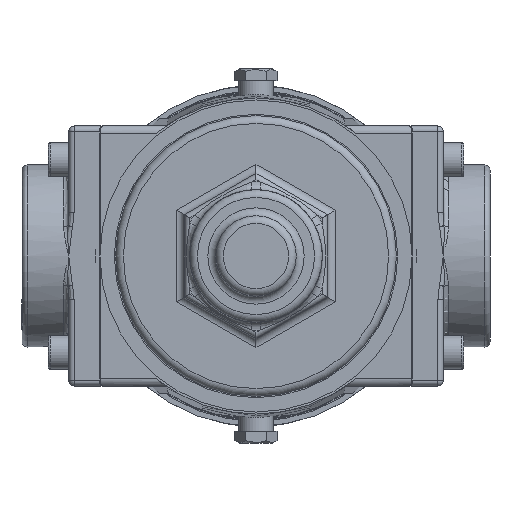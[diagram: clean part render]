
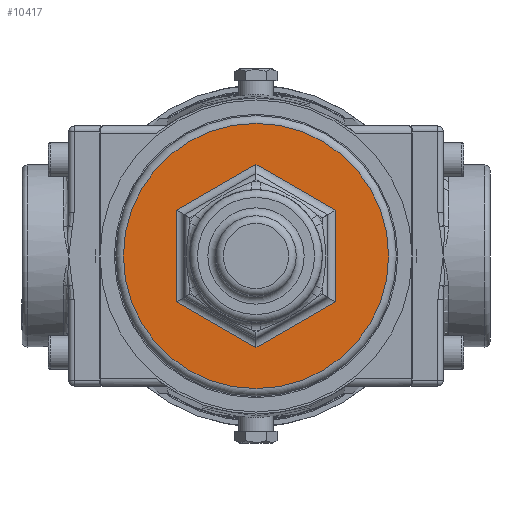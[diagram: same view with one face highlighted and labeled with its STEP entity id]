
A CAD part, front view. The second image highlights one B-rep face of the part: STEP entity #10417.
In plain terms, the highlighted planar face has unit normal (0, -1, 0).
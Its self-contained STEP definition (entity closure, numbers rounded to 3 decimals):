
#1369=LINE('',#26273,#1884);
#1371=LINE('',#26281,#1886);
#1372=LINE('',#26284,#1887);
#1374=LINE('',#26290,#1889);
#1376=LINE('',#26295,#1891);
#1377=LINE('',#26297,#1892);
#1884=VECTOR('',#14320,10.);
#1886=VECTOR('',#14328,10.);
#1887=VECTOR('',#14333,10.);
#1889=VECTOR('',#14339,10.);
#1891=VECTOR('',#14345,10.);
#1892=VECTOR('',#14348,10.);
#2274=FACE_BOUND('',#3438,.T.);
#2751=FACE_OUTER_BOUND('',#3437,.T.);
#3437=EDGE_LOOP('',(#8931));
#3438=EDGE_LOOP('',(#8932,#8933,#8934,#8935,#8936,#8937));
#4097=CIRCLE('',#11869,51.);
#4947=VERTEX_POINT('',#26270);
#4948=VERTEX_POINT('',#26272);
#4950=VERTEX_POINT('',#26278);
#4951=VERTEX_POINT('',#26280);
#4953=VERTEX_POINT('',#26288);
#4954=VERTEX_POINT('',#26293);
#4955=VERTEX_POINT('',#26304);
#6309=EDGE_CURVE('',#4947,#4948,#1369,.T.);
#6313=EDGE_CURVE('',#4950,#4951,#1371,.T.);
#6315=EDGE_CURVE('',#4951,#4947,#1372,.T.);
#6318=EDGE_CURVE('',#4953,#4950,#1374,.T.);
#6321=EDGE_CURVE('',#4954,#4953,#1376,.T.);
#6322=EDGE_CURVE('',#4948,#4954,#1377,.T.);
#6325=EDGE_CURVE('',#4955,#4955,#4097,.T.);
#8931=ORIENTED_EDGE('',*,*,#6325,.F.);
#8932=ORIENTED_EDGE('',*,*,#6313,.F.);
#8933=ORIENTED_EDGE('',*,*,#6318,.F.);
#8934=ORIENTED_EDGE('',*,*,#6321,.F.);
#8935=ORIENTED_EDGE('',*,*,#6322,.F.);
#8936=ORIENTED_EDGE('',*,*,#6309,.F.);
#8937=ORIENTED_EDGE('',*,*,#6315,.F.);
#9887=PLANE('',#11868);
#10417=ADVANCED_FACE('',(#2751,#2274),#9887,.T.);
#11868=AXIS2_PLACEMENT_3D('',#26303,#14357,#14358);
#11869=AXIS2_PLACEMENT_3D('',#26305,#14359,#14360);
#14320=DIRECTION('',(0.866,0.,0.5));
#14328=DIRECTION('',(0.,0.,-1.));
#14333=DIRECTION('',(0.866,0.,-0.5));
#14339=DIRECTION('',(-0.866,0.,-0.5));
#14345=DIRECTION('',(-0.866,0.,0.5));
#14348=DIRECTION('',(0.,0.,1.));
#14357=DIRECTION('center_axis',(0.,-1.,0.));
#14358=DIRECTION('ref_axis',(0.,0.,-1.));
#14359=DIRECTION('center_axis',(0.,1.,0.));
#14360=DIRECTION('ref_axis',(1.,0.,0.));
#26270=CARTESIAN_POINT('',(0.,-45.,-35.218));
#26272=CARTESIAN_POINT('',(30.5,-45.,-17.609));
#26273=CARTESIAN_POINT('',(-6.531,-45.,-38.989));
#26278=CARTESIAN_POINT('',(-30.5,-45.,17.609));
#26280=CARTESIAN_POINT('',(-30.5,-45.,-17.609));
#26281=CARTESIAN_POINT('',(-30.5,-45.,7.939));
#26284=CARTESIAN_POINT('',(-37.031,-45.,-13.838));
#26288=CARTESIAN_POINT('',(0.,-45.,35.218));
#26290=CARTESIAN_POINT('',(-23.281,-45.,21.777));
#26293=CARTESIAN_POINT('',(30.5,-45.,17.609));
#26295=CARTESIAN_POINT('',(7.219,-45.,31.051));
#26297=CARTESIAN_POINT('',(30.5,-45.,-7.939));
#26303=CARTESIAN_POINT('Origin',(-39.75,-45.,0.));
#26304=CARTESIAN_POINT('',(0.,-45.,51.));
#26305=CARTESIAN_POINT('Origin',(0.,-45.,0.));
